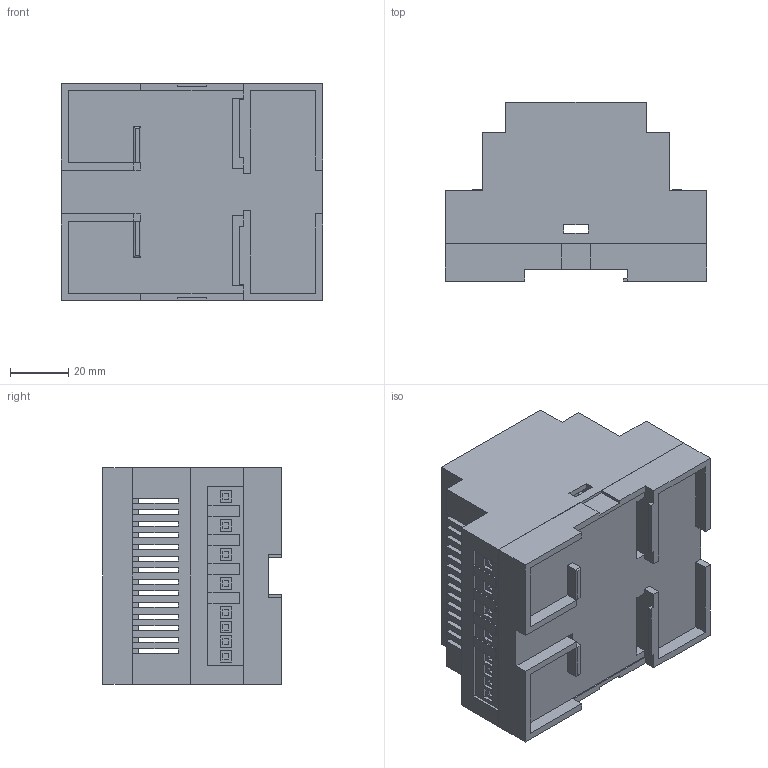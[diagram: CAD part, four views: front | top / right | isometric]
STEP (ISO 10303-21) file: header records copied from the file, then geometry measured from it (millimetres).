
FILE_DESCRIPTION (( 'STEP AP214' ), '1' );
FILE_NAME ('VPM-07-1.STEP', '2026-05-13T07:15:48', ( '' ), ( '' ), 'SwSTEP 2.0', 'SolidWorks 2022', '' );
FILE_SCHEMA (( 'AUTOMOTIVE_DESIGN' ));
Length unit declared in the file: millimetre
Products named in the file (1): VPM-07-1
Bounding box: 90 x 61.5 x 74.6 mm (x, y, z)
Volume: 54095.4 mm3; surface area: 73463 mm2
Topology: 14 solids, 14 shells, 2149 faces, 5898 edges, 3912 vertices
Faces by surface type: plane 1504, bspline 478, cylinder 167
Entity records: 91534 total; most frequent: CARTESIAN_POINT 39062, ORIENTED_EDGE 11796, DIRECTION 8666, EDGE_CURVE 5898, VECTOR 4554, LINE 4554, VERTEX_POINT 3912, EDGE_LOOP 2480
